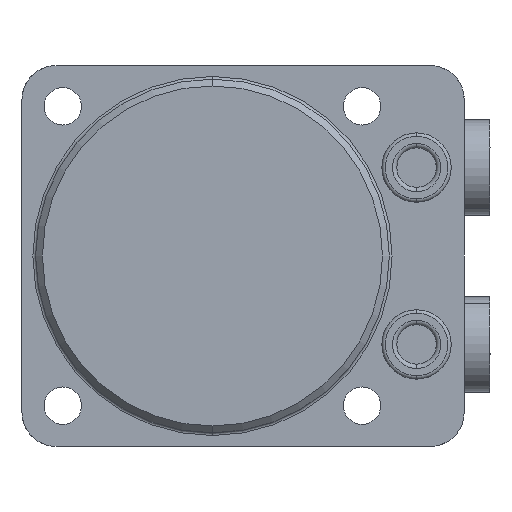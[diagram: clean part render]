
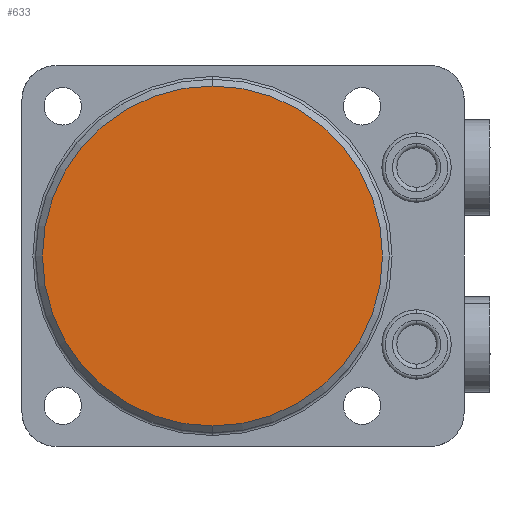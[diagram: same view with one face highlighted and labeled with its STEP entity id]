
A CAD part, front view. The second image highlights one B-rep face of the part: STEP entity #633.
In plain terms, the highlighted planar face has unit normal (0, -1, 0).
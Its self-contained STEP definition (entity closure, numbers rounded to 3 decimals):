
#355=PLANE('',#4020);
#633=ADVANCED_FACE('',(#895),#355,.F.);
#895=FACE_OUTER_BOUND('',#1120,.T.);
#1120=EDGE_LOOP('',(#2034,#2035));
#2034=ORIENTED_EDGE('',*,*,#3264,.T.);
#2035=ORIENTED_EDGE('',*,*,#3205,.T.);
#2830=VERTEX_POINT('',#6083);
#2831=VERTEX_POINT('',#6084);
#3205=EDGE_CURVE('',#2830,#2831,#3623,.T.);
#3264=EDGE_CURVE('',#2831,#2830,#3644,.T.);
#3623=CIRCLE('',#3987,25.);
#3644=CIRCLE('',#4019,25.);
#3987=AXIS2_PLACEMENT_3D('',#6082,#4789,#4790);
#4019=AXIS2_PLACEMENT_3D('',#6274,#4871,#4872);
#4020=AXIS2_PLACEMENT_3D('',#6275,#4873,#4874);
#4789=DIRECTION('',(0.,-1.,0.));
#4790=DIRECTION('',(0.,0.,1.));
#4871=DIRECTION('',(0.,-1.,0.));
#4872=DIRECTION('',(0.,0.,1.));
#4873=DIRECTION('',(0.,1.,0.));
#4874=DIRECTION('',(0.,0.,1.));
#6082=CARTESIAN_POINT('',(0.,-42.,0.));
#6083=CARTESIAN_POINT('',(0.,-42.,-25.));
#6084=CARTESIAN_POINT('',(0.,-42.,25.));
#6274=CARTESIAN_POINT('',(0.,-42.,0.));
#6275=CARTESIAN_POINT('',(0.,-42.,0.));
